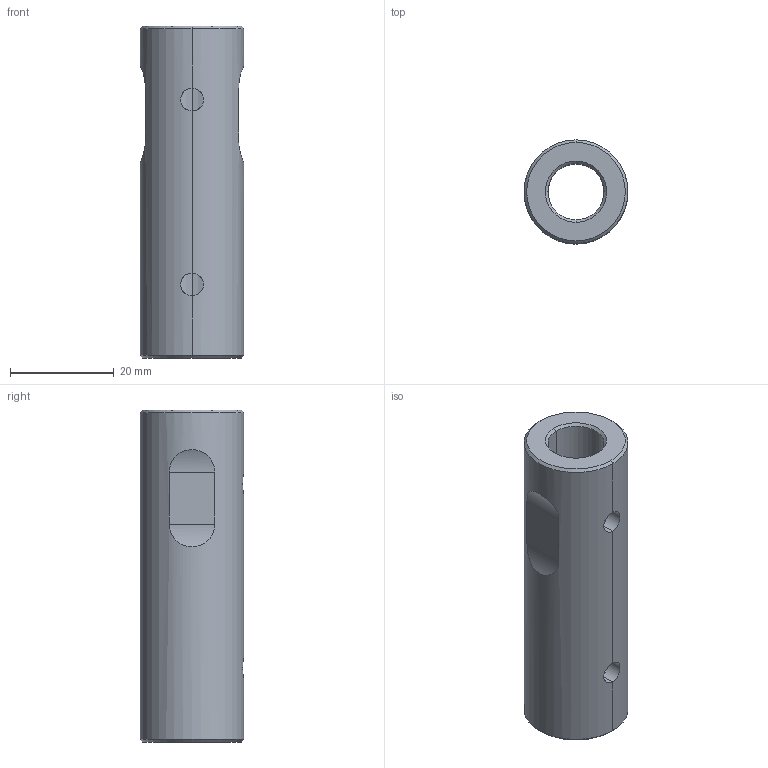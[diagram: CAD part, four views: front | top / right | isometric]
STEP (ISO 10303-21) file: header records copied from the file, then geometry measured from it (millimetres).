
FILE_DESCRIPTION (( 'STEP AP203' ), '1' );
FILE_NAME ('Spannschloss M12.STEP', '2018-02-22T09:58:08', ( 'install' ), ( 'Hewlett-Packard Company' ), 'SwSTEP 2.0', 'SolidWorks 2017', '' );
FILE_SCHEMA (( 'CONFIG_CONTROL_DESIGN' ));
Length unit declared in the file: millimetre
Products named in the file (1): Spannschloss M12
Bounding box: 20 x 20 x 64 mm (x, y, z)
Volume: 11455.1 mm3; surface area: 7124.9 mm2
Topology: 1 solids, 1 shells, 30 faces, 66 edges, 38 vertices
Faces by surface type: cylinder 16, cone 8, plane 6
Entity records: 1231 total; most frequent: CARTESIAN_POINT 491, DIRECTION 140, ORIENTED_EDGE 132, EDGE_CURVE 66, AXIS2_PLACEMENT_3D 55, VERTEX_POINT 38, EDGE_LOOP 36, FACE_OUTER_BOUND 30
